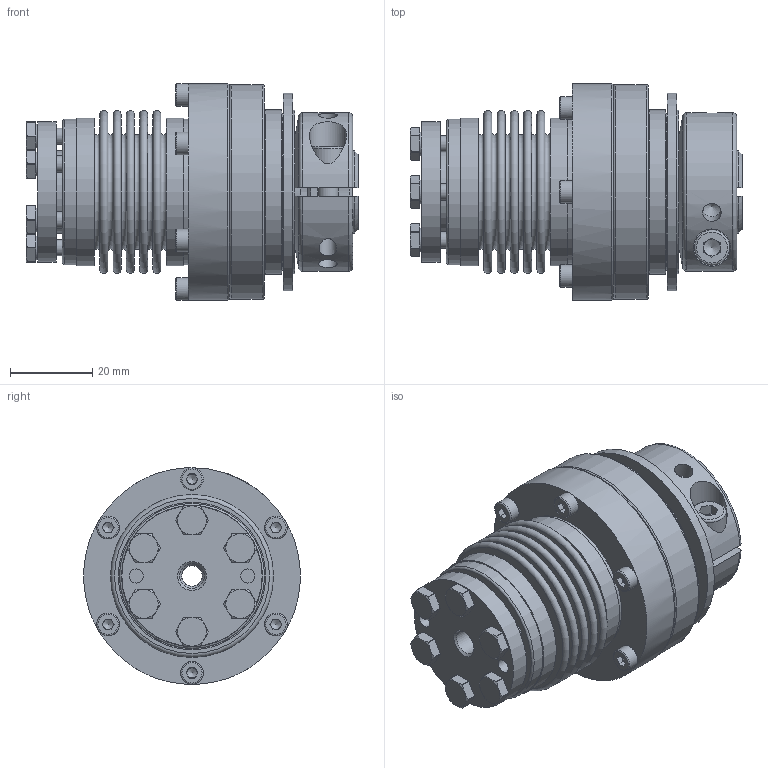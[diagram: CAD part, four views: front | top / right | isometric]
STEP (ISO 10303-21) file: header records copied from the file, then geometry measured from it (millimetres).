
FILE_DESCRIPTION( ( 'Unknown' ), '1' );
FILE_NAME( 'F:/JAKOB-STEP+IGES-Dateien/STEP-Dateien/SKB-KS/SKB-KS 6.stp', 'Unknown', ( 'Unknown' ), ( 'Unknown' ), 'PSStep 10.1', 'Unknown', ' ' );
FILE_SCHEMA( ( 'AUTOMOTIVE_DESIGN { 1 0 10303 214 1 1 1 1 }' ) );
Length unit declared in the file: millimetre
Products named in the file (1): kt102870-oa9
Bounding box: 80.5 x 52.5 x 52.5 mm (x, y, z)
Volume: 76176.6 mm3; surface area: 50436 mm2
Topology: 1 solids, 9 shells, 608 faces, 1526 edges, 976 vertices
Faces by surface type: plane 281, cylinder 157, torus 82, cone 42, bspline 35, sphere 10, revolution 1
Full cylindrical faces by diameter (mm): 1.5 x2, 2.5 x6, 3 x6, 3.3 x1, 3.4 x14, 4 x6, 4.2 x1, 4.3 x6, 4.5 x3, 5 x2, 5.5 x7, 5.9 x6, 6 x1, 8.5 x1, 9 x1, 14 x1, 19 x1, 19.9 x1, 20 x3, 24 x1, 25 x2, 25.4 x1, 25.5 x1, 27.2 x2, 28 x1, 34 x1, 35.1 x2, 35.2 x2, 35.8 x2, 37.9 x2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
Entity records: 23293 total; most frequent: CARTESIAN_POINT 5062, DIRECTION 2813, ORIENTED_EDGE 2500, EDGE_CURVE 1250, AXIS2_PLACEMENT_3D 1190, EDGE_LOOP 901, VERTEX_POINT 890, FACE_OUTER_BOUND 742
